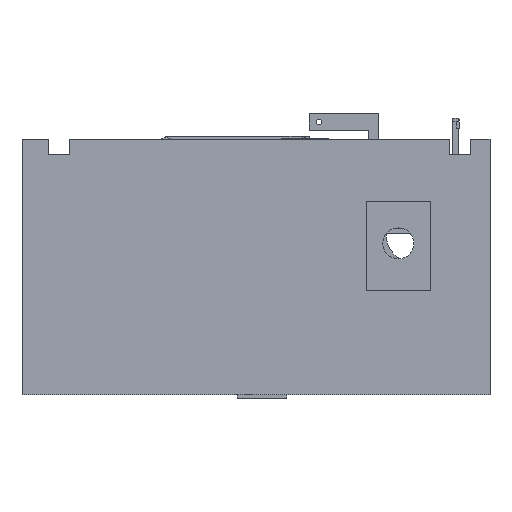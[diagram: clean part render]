
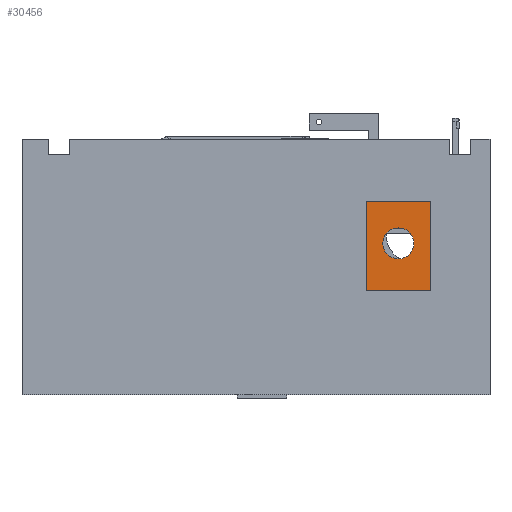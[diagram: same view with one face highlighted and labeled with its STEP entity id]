
A CAD part, front view. The second image highlights one B-rep face of the part: STEP entity #30456.
In plain terms, the highlighted planar face has unit normal (0, -1, 0).
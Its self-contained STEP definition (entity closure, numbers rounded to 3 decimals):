
#2974 = PLANE('',#2975);
#2975 = AXIS2_PLACEMENT_3D('',#2976,#2977,#2978);
#2976 = CARTESIAN_POINT('',(159.,-103.,82.));
#2977 = DIRECTION('',(1.,0.,0.));
#2978 = DIRECTION('',(0.,0.,1.));
#3028 = PLANE('',#3029);
#3029 = AXIS2_PLACEMENT_3D('',#3030,#3031,#3032);
#3030 = CARTESIAN_POINT('',(185.,-103.,82.));
#3031 = DIRECTION('',(1.,0.,0.));
#3032 = DIRECTION('',(0.,0.,1.));
#3431 = PLANE('',#3432);
#3432 = AXIS2_PLACEMENT_3D('',#3433,#3434,#3435);
#3433 = CARTESIAN_POINT('',(172.,-99.664,118.));
#3434 = DIRECTION('',(0.,0.,1.));
#3435 = DIRECTION('',(1.,0.,0.));
#3485 = PLANE('',#3486);
#3486 = AXIS2_PLACEMENT_3D('',#3487,#3488,#3489);
#3487 = CARTESIAN_POINT('',(172.,-99.664,82.));
#3488 = DIRECTION('',(-0.,-0.,-1.));
#3489 = DIRECTION('',(-1.,0.,0.));
#12488 = VERTEX_POINT('',#12489);
#12489 = CARTESIAN_POINT('',(159.,-100.5,82.));
#12510 = EDGE_CURVE('',#12511,#12488,#12513,.T.);
#12511 = VERTEX_POINT('',#12512);
#12512 = CARTESIAN_POINT('',(159.,-100.5,118.));
#12513 = SURFACE_CURVE('',#12514,(#12518,#12524),.PCURVE_S1.);
#12514 = LINE('',#12515,#12516);
#12515 = CARTESIAN_POINT('',(159.,-100.5,82.));
#12516 = VECTOR('',#12517,1.);
#12517 = DIRECTION('',(0.,0.,-1.));
#12518 = PCURVE('',#2974,#12519);
#12519 = DEFINITIONAL_REPRESENTATION('',(#12520),#12523);
#12520 = B_SPLINE_CURVE_WITH_KNOTS('',1,(#12521,#12522),.UNSPECIFIED.,
  .F.,.F.,(2,2),(-36.,-0.),.PIECEWISE_BEZIER_KNOTS.);
#12521 = CARTESIAN_POINT('',(36.,-2.5));
#12522 = CARTESIAN_POINT('',(0.,-2.5));
#12523 = ( GEOMETRIC_REPRESENTATION_CONTEXT(2) 
PARAMETRIC_REPRESENTATION_CONTEXT() REPRESENTATION_CONTEXT('2D SPACE',''
  ) );
#12524 = PCURVE('',#12525,#12530);
#12525 = PLANE('',#12526);
#12526 = AXIS2_PLACEMENT_3D('',#12527,#12528,#12529);
#12527 = CARTESIAN_POINT('',(155.,-100.5,82.));
#12528 = DIRECTION('',(0.,1.,0.));
#12529 = DIRECTION('',(0.,0.,1.));
#12530 = DEFINITIONAL_REPRESENTATION('',(#12531),#12534);
#12531 = B_SPLINE_CURVE_WITH_KNOTS('',1,(#12532,#12533),.UNSPECIFIED.,
  .F.,.F.,(2,2),(-36.,-0.),.PIECEWISE_BEZIER_KNOTS.);
#12532 = CARTESIAN_POINT('',(36.,4.));
#12533 = CARTESIAN_POINT('',(0.,4.));
#12534 = ( GEOMETRIC_REPRESENTATION_CONTEXT(2) 
PARAMETRIC_REPRESENTATION_CONTEXT() REPRESENTATION_CONTEXT('2D SPACE',''
  ) );
#12618 = VERTEX_POINT('',#12619);
#12619 = CARTESIAN_POINT('',(185.,-100.5,82.));
#12640 = EDGE_CURVE('',#12641,#12618,#12643,.T.);
#12641 = VERTEX_POINT('',#12642);
#12642 = CARTESIAN_POINT('',(185.,-100.5,118.));
#12643 = SURFACE_CURVE('',#12644,(#12648,#12654),.PCURVE_S1.);
#12644 = LINE('',#12645,#12646);
#12645 = CARTESIAN_POINT('',(185.,-100.5,82.));
#12646 = VECTOR('',#12647,1.);
#12647 = DIRECTION('',(0.,0.,-1.));
#12648 = PCURVE('',#3028,#12649);
#12649 = DEFINITIONAL_REPRESENTATION('',(#12650),#12653);
#12650 = B_SPLINE_CURVE_WITH_KNOTS('',1,(#12651,#12652),.UNSPECIFIED.,
  .F.,.F.,(2,2),(-36.,-0.),.PIECEWISE_BEZIER_KNOTS.);
#12651 = CARTESIAN_POINT('',(36.,-2.5));
#12652 = CARTESIAN_POINT('',(0.,-2.5));
#12653 = ( GEOMETRIC_REPRESENTATION_CONTEXT(2) 
PARAMETRIC_REPRESENTATION_CONTEXT() REPRESENTATION_CONTEXT('2D SPACE',''
  ) );
#12654 = PCURVE('',#12525,#12655);
#12655 = DEFINITIONAL_REPRESENTATION('',(#12656),#12659);
#12656 = B_SPLINE_CURVE_WITH_KNOTS('',1,(#12657,#12658),.UNSPECIFIED.,
  .F.,.F.,(2,2),(-36.,-0.),.PIECEWISE_BEZIER_KNOTS.);
#12657 = CARTESIAN_POINT('',(36.,30.));
#12658 = CARTESIAN_POINT('',(0.,30.));
#12659 = ( GEOMETRIC_REPRESENTATION_CONTEXT(2) 
PARAMETRIC_REPRESENTATION_CONTEXT() REPRESENTATION_CONTEXT('2D SPACE',''
  ) );
#13288 = EDGE_CURVE('',#12511,#12641,#13289,.T.);
#13289 = SURFACE_CURVE('',#13290,(#13294,#13301),.PCURVE_S1.);
#13290 = LINE('',#13291,#13292);
#13291 = CARTESIAN_POINT('',(155.,-100.5,118.));
#13292 = VECTOR('',#13293,1.);
#13293 = DIRECTION('',(1.,0.,0.));
#13294 = PCURVE('',#3431,#13295);
#13295 = DEFINITIONAL_REPRESENTATION('',(#13296),#13300);
#13296 = LINE('',#13297,#13298);
#13297 = CARTESIAN_POINT('',(-17.,-0.836));
#13298 = VECTOR('',#13299,1.);
#13299 = DIRECTION('',(1.,0.));
#13300 = ( GEOMETRIC_REPRESENTATION_CONTEXT(2) 
PARAMETRIC_REPRESENTATION_CONTEXT() REPRESENTATION_CONTEXT('2D SPACE',''
  ) );
#13301 = PCURVE('',#12525,#13302);
#13302 = DEFINITIONAL_REPRESENTATION('',(#13303),#13307);
#13303 = LINE('',#13304,#13305);
#13304 = CARTESIAN_POINT('',(36.,0.));
#13305 = VECTOR('',#13306,1.);
#13306 = DIRECTION('',(0.,1.));
#13307 = ( GEOMETRIC_REPRESENTATION_CONTEXT(2) 
PARAMETRIC_REPRESENTATION_CONTEXT() REPRESENTATION_CONTEXT('2D SPACE',''
  ) );
#13482 = EDGE_CURVE('',#12488,#12618,#13483,.T.);
#13483 = SURFACE_CURVE('',#13484,(#13488,#13495),.PCURVE_S1.);
#13484 = LINE('',#13485,#13486);
#13485 = CARTESIAN_POINT('',(155.,-100.5,82.));
#13486 = VECTOR('',#13487,1.);
#13487 = DIRECTION('',(1.,0.,0.));
#13488 = PCURVE('',#3485,#13489);
#13489 = DEFINITIONAL_REPRESENTATION('',(#13490),#13494);
#13490 = LINE('',#13491,#13492);
#13491 = CARTESIAN_POINT('',(17.,-0.836));
#13492 = VECTOR('',#13493,1.);
#13493 = DIRECTION('',(-1.,0.));
#13494 = ( GEOMETRIC_REPRESENTATION_CONTEXT(2) 
PARAMETRIC_REPRESENTATION_CONTEXT() REPRESENTATION_CONTEXT('2D SPACE',''
  ) );
#13495 = PCURVE('',#12525,#13496);
#13496 = DEFINITIONAL_REPRESENTATION('',(#13497),#13501);
#13497 = LINE('',#13498,#13499);
#13498 = CARTESIAN_POINT('',(0.,0.));
#13499 = VECTOR('',#13500,1.);
#13500 = DIRECTION('',(0.,1.));
#13501 = ( GEOMETRIC_REPRESENTATION_CONTEXT(2) 
PARAMETRIC_REPRESENTATION_CONTEXT() REPRESENTATION_CONTEXT('2D SPACE',''
  ) );
#30456 = ADVANCED_FACE('',(#30457,#30463),#12525,.F.);
#30457 = FACE_BOUND('',#30458,.F.);
#30458 = EDGE_LOOP('',(#30459,#30460,#30461,#30462));
#30459 = ORIENTED_EDGE('',*,*,#13482,.F.);
#30460 = ORIENTED_EDGE('',*,*,#12510,.F.);
#30461 = ORIENTED_EDGE('',*,*,#13288,.T.);
#30462 = ORIENTED_EDGE('',*,*,#12640,.T.);
#30463 = FACE_BOUND('',#30464,.F.);
#30464 = EDGE_LOOP('',(#30465));
#30465 = ORIENTED_EDGE('',*,*,#30466,.F.);
#30466 = EDGE_CURVE('',#30467,#30467,#30469,.T.);
#30467 = VERTEX_POINT('',#30468);
#30468 = CARTESIAN_POINT('',(172.,-100.5,107.25));
#30469 = SURFACE_CURVE('',#30470,(#30475,#30482),.PCURVE_S1.);
#30470 = CIRCLE('',#30471,6.25);
#30471 = AXIS2_PLACEMENT_3D('',#30472,#30473,#30474);
#30472 = CARTESIAN_POINT('',(172.,-100.5,101.));
#30473 = DIRECTION('',(0.,1.,0.));
#30474 = DIRECTION('',(0.,0.,1.));
#30475 = PCURVE('',#12525,#30476);
#30476 = DEFINITIONAL_REPRESENTATION('',(#30477),#30481);
#30477 = CIRCLE('',#30478,6.25);
#30478 = AXIS2_PLACEMENT_2D('',#30479,#30480);
#30479 = CARTESIAN_POINT('',(19.,17.));
#30480 = DIRECTION('',(1.,0.));
#30481 = ( GEOMETRIC_REPRESENTATION_CONTEXT(2) 
PARAMETRIC_REPRESENTATION_CONTEXT() REPRESENTATION_CONTEXT('2D SPACE',''
  ) );
#30482 = PCURVE('',#30483,#30488);
#30483 = CYLINDRICAL_SURFACE('',#30484,6.25);
#30484 = AXIS2_PLACEMENT_3D('',#30485,#30486,#30487);
#30485 = CARTESIAN_POINT('',(172.,-101.,101.));
#30486 = DIRECTION('',(0.,1.,0.));
#30487 = DIRECTION('',(0.,0.,1.));
#30488 = DEFINITIONAL_REPRESENTATION('',(#30489),#30493);
#30489 = LINE('',#30490,#30491);
#30490 = CARTESIAN_POINT('',(0.,0.5));
#30491 = VECTOR('',#30492,1.);
#30492 = DIRECTION('',(1.,0.));
#30493 = ( GEOMETRIC_REPRESENTATION_CONTEXT(2) 
PARAMETRIC_REPRESENTATION_CONTEXT() REPRESENTATION_CONTEXT('2D SPACE',''
  ) );
